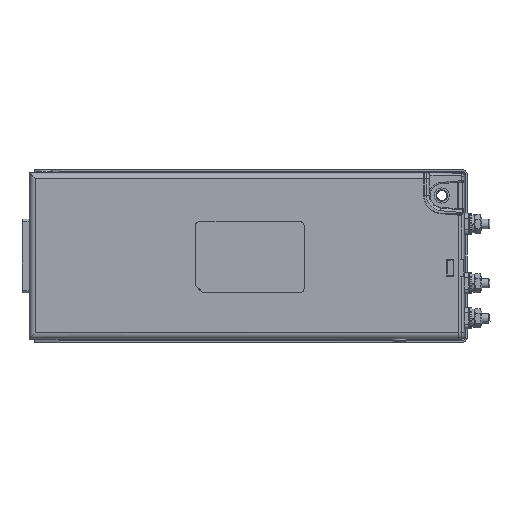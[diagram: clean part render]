
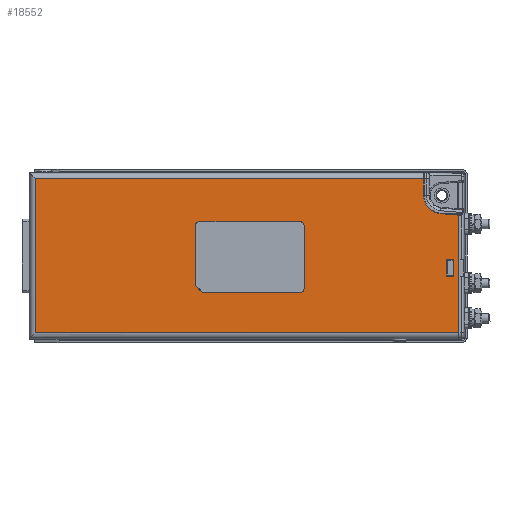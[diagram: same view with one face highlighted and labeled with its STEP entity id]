
A CAD part, top view. The second image highlights one B-rep face of the part: STEP entity #18552.
In plain terms, the highlighted planar face has unit normal (0, 0, 1).
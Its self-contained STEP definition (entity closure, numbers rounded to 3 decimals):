
#372=FACE_BOUND('',#2056,.T.);
#373=FACE_BOUND('',#2057,.T.);
#474=PLANE('',#19673);
#995=FACE_OUTER_BOUND('',#2055,.T.);
#2055=EDGE_LOOP('',(#11866,#11867,#11868,#11869,#11870,#11871,#11872,#11873));
#2056=EDGE_LOOP('',(#11874,#11875,#11876,#11877));
#2057=EDGE_LOOP('',(#11878,#11879,#11880,#11881,#11882,#11883,#11884,#11885,
#11886,#11887));
#3506=CIRCLE('',#19672,7.7);
#3507=CIRCLE('',#19674,2.);
#3508=CIRCLE('',#19675,2.);
#3509=CIRCLE('',#19676,2.);
#4176=LINE('',#27197,#5779);
#4193=LINE('',#27293,#5796);
#4199=LINE('',#27341,#5802);
#4200=LINE('',#27343,#5803);
#4201=LINE('',#27344,#5804);
#4202=LINE('',#27346,#5805);
#4203=LINE('',#27347,#5806);
#4204=LINE('',#27350,#5807);
#4205=LINE('',#27352,#5808);
#4206=LINE('',#27354,#5809);
#4207=LINE('',#27355,#5810);
#4208=LINE('',#27358,#5811);
#4209=LINE('',#27362,#5812);
#4210=LINE('',#27366,#5813);
#4211=LINE('',#27370,#5814);
#4212=LINE('',#27372,#5815);
#4213=LINE('',#27374,#5816);
#4214=LINE('',#27375,#5817);
#5779=VECTOR('',#21692,10.);
#5796=VECTOR('',#21727,10.);
#5802=VECTOR('',#21753,10.);
#5803=VECTOR('',#21754,10.);
#5804=VECTOR('',#21755,10.);
#5805=VECTOR('',#21756,10.);
#5806=VECTOR('',#21757,10.);
#5807=VECTOR('',#21758,10.);
#5808=VECTOR('',#21759,10.);
#5809=VECTOR('',#21760,10.);
#5810=VECTOR('',#21761,10.);
#5811=VECTOR('',#21762,10.);
#5812=VECTOR('',#21765,10.);
#5813=VECTOR('',#21768,10.);
#5814=VECTOR('',#21771,10.);
#5815=VECTOR('',#21772,10.);
#5816=VECTOR('',#21773,10.);
#5817=VECTOR('',#21774,10.);
#7410=VERTEX_POINT('',#27194);
#7411=VERTEX_POINT('',#27196);
#7433=VERTEX_POINT('',#27291);
#7443=VERTEX_POINT('',#27335);
#7444=VERTEX_POINT('',#27339);
#7445=VERTEX_POINT('',#27340);
#7446=VERTEX_POINT('',#27342);
#7447=VERTEX_POINT('',#27345);
#7448=VERTEX_POINT('',#27348);
#7449=VERTEX_POINT('',#27349);
#7450=VERTEX_POINT('',#27351);
#7451=VERTEX_POINT('',#27353);
#7452=VERTEX_POINT('',#27356);
#7453=VERTEX_POINT('',#27357);
#7454=VERTEX_POINT('',#27359);
#7455=VERTEX_POINT('',#27361);
#7456=VERTEX_POINT('',#27363);
#7457=VERTEX_POINT('',#27365);
#7458=VERTEX_POINT('',#27367);
#7459=VERTEX_POINT('',#27369);
#7460=VERTEX_POINT('',#27371);
#7461=VERTEX_POINT('',#27373);
#9102=EDGE_CURVE('',#7410,#7411,#4176,.T.);
#9128=EDGE_CURVE('',#7410,#7433,#4193,.T.);
#9141=EDGE_CURVE('',#7433,#7443,#3506,.T.);
#9142=EDGE_CURVE('',#7444,#7445,#4199,.T.);
#9143=EDGE_CURVE('',#7445,#7446,#4200,.T.);
#9144=EDGE_CURVE('',#7411,#7446,#4201,.T.);
#9145=EDGE_CURVE('',#7443,#7447,#4202,.T.);
#9146=EDGE_CURVE('',#7447,#7444,#4203,.T.);
#9147=EDGE_CURVE('',#7448,#7449,#4204,.T.);
#9148=EDGE_CURVE('',#7449,#7450,#4205,.T.);
#9149=EDGE_CURVE('',#7450,#7451,#4206,.T.);
#9150=EDGE_CURVE('',#7451,#7448,#4207,.T.);
#9151=EDGE_CURVE('',#7452,#7453,#4208,.T.);
#9152=EDGE_CURVE('',#7454,#7452,#3507,.T.);
#9153=EDGE_CURVE('',#7455,#7454,#4209,.T.);
#9154=EDGE_CURVE('',#7456,#7455,#3508,.T.);
#9155=EDGE_CURVE('',#7457,#7456,#4210,.T.);
#9156=EDGE_CURVE('',#7458,#7457,#3509,.T.);
#9157=EDGE_CURVE('',#7459,#7458,#4211,.T.);
#9158=EDGE_CURVE('',#7460,#7459,#4212,.T.);
#9159=EDGE_CURVE('',#7461,#7460,#4213,.T.);
#9160=EDGE_CURVE('',#7453,#7461,#4214,.T.);
#11866=ORIENTED_EDGE('',*,*,#9142,.T.);
#11867=ORIENTED_EDGE('',*,*,#9143,.T.);
#11868=ORIENTED_EDGE('',*,*,#9144,.F.);
#11869=ORIENTED_EDGE('',*,*,#9102,.F.);
#11870=ORIENTED_EDGE('',*,*,#9128,.T.);
#11871=ORIENTED_EDGE('',*,*,#9141,.T.);
#11872=ORIENTED_EDGE('',*,*,#9145,.T.);
#11873=ORIENTED_EDGE('',*,*,#9146,.T.);
#11874=ORIENTED_EDGE('',*,*,#9147,.T.);
#11875=ORIENTED_EDGE('',*,*,#9148,.T.);
#11876=ORIENTED_EDGE('',*,*,#9149,.T.);
#11877=ORIENTED_EDGE('',*,*,#9150,.T.);
#11878=ORIENTED_EDGE('',*,*,#9151,.F.);
#11879=ORIENTED_EDGE('',*,*,#9152,.F.);
#11880=ORIENTED_EDGE('',*,*,#9153,.F.);
#11881=ORIENTED_EDGE('',*,*,#9154,.F.);
#11882=ORIENTED_EDGE('',*,*,#9155,.F.);
#11883=ORIENTED_EDGE('',*,*,#9156,.F.);
#11884=ORIENTED_EDGE('',*,*,#9157,.F.);
#11885=ORIENTED_EDGE('',*,*,#9158,.F.);
#11886=ORIENTED_EDGE('',*,*,#9159,.F.);
#11887=ORIENTED_EDGE('',*,*,#9160,.F.);
#18552=ADVANCED_FACE('',(#995,#372,#373),#474,.T.);
#19672=AXIS2_PLACEMENT_3D('',#27337,#21749,#21750);
#19673=AXIS2_PLACEMENT_3D('',#27338,#21751,#21752);
#19674=AXIS2_PLACEMENT_3D('',#27360,#21763,#21764);
#19675=AXIS2_PLACEMENT_3D('',#27364,#21766,#21767);
#19676=AXIS2_PLACEMENT_3D('',#27368,#21769,#21770);
#21692=DIRECTION('',(0.676,-0.737,0.));
#21727=DIRECTION('',(-0.996,0.087,0.));
#21749=DIRECTION('center_axis',(0.,0.,
-1.));
#21750=DIRECTION('ref_axis',(-1.,0.,0.));
#21751=DIRECTION('center_axis',(0.,0.,
1.));
#21752=DIRECTION('ref_axis',(0.,-1.,0.));
#21753=DIRECTION('',(0.,-1.,0.));
#21754=DIRECTION('',(1.,0.,0.));
#21755=DIRECTION('',(0.,-1.,0.));
#21756=DIRECTION('',(0.,1.,0.));
#21757=DIRECTION('',(-1.,0.,0.));
#21758=DIRECTION('',(-1.,0.,0.));
#21759=DIRECTION('',(0.,1.,0.));
#21760=DIRECTION('',(1.,0.,0.));
#21761=DIRECTION('',(0.,-1.,0.));
#21762=DIRECTION('',(0.,-1.,0.));
#21763=DIRECTION('center_axis',(0.,0.,
1.));
#21764=DIRECTION('ref_axis',(-0.707,0.707,0.));
#21765=DIRECTION('',(-1.,0.,0.));
#21766=DIRECTION('center_axis',(0.,0.,
1.));
#21767=DIRECTION('ref_axis',(0.707,0.707,0.));
#21768=DIRECTION('',(0.,1.,0.));
#21769=DIRECTION('center_axis',(0.,0.,
1.));
#21770=DIRECTION('ref_axis',(0.707,-0.707,0.));
#21771=DIRECTION('',(1.,0.,0.));
#21772=DIRECTION('',(0.707,-0.707,0.));
#21773=DIRECTION('',(0.707,-0.707,0.));
#21774=DIRECTION('',(0.,-1.,0.));
#27194=CARTESIAN_POINT('',(90.502,17.202,34.9));
#27196=CARTESIAN_POINT('',(91.,16.658,34.9));
#27197=CARTESIAN_POINT('',(74.371,34.805,34.9));
#27291=CARTESIAN_POINT('',(83.329,17.829,34.9));
#27293=CARTESIAN_POINT('',(46.839,21.022,34.9));
#27335=CARTESIAN_POINT('',(76.3,25.5,34.9));
#27337=CARTESIAN_POINT('Origin',(84.,25.5,34.9));
#27338=CARTESIAN_POINT('Origin',(0.5,0.,
34.9));
#27339=CARTESIAN_POINT('',(-87.5,32.5,34.9));
#27340=CARTESIAN_POINT('',(-87.5,-32.5,34.9));
#27341=CARTESIAN_POINT('',(-87.5,-16.25,34.9));
#27342=CARTESIAN_POINT('',(91.,-32.5,34.9));
#27343=CARTESIAN_POINT('',(-44.75,-32.5,34.9));
#27344=CARTESIAN_POINT('',(91.,35.,34.9));
#27345=CARTESIAN_POINT('',(76.3,32.5,34.9));
#27346=CARTESIAN_POINT('',(76.3,12.75,34.9));
#27347=CARTESIAN_POINT('',(45.75,32.5,34.9));
#27348=CARTESIAN_POINT('',(89.,-8.5,34.9));
#27349=CARTESIAN_POINT('',(86.,-8.5,34.9));
#27350=CARTESIAN_POINT('',(44.75,-8.5,34.9));
#27351=CARTESIAN_POINT('',(86.,-1.5,34.9));
#27352=CARTESIAN_POINT('',(86.,-4.25,34.9));
#27353=CARTESIAN_POINT('',(89.,-1.5,34.9));
#27354=CARTESIAN_POINT('',(43.25,-1.5,34.9));
#27355=CARTESIAN_POINT('',(89.,-0.75,34.9));
#27356=CARTESIAN_POINT('',(-20.,12.475,34.9));
#27357=CARTESIAN_POINT('',(-20.,-9.025,34.9));
#27358=CARTESIAN_POINT('',(-20.,14.475,34.9));
#27359=CARTESIAN_POINT('',(-18.,14.475,34.9));
#27360=CARTESIAN_POINT('Origin',(-18.,12.475,34.9));
#27361=CARTESIAN_POINT('',(24.,14.475,34.9));
#27362=CARTESIAN_POINT('',(26.,14.475,34.9));
#27363=CARTESIAN_POINT('',(26.,12.475,34.9));
#27364=CARTESIAN_POINT('Origin',(24.,12.475,34.9));
#27365=CARTESIAN_POINT('',(26.,-13.525,34.9));
#27366=CARTESIAN_POINT('',(26.,-15.525,34.9));
#27367=CARTESIAN_POINT('',(24.,-15.525,34.9));
#27368=CARTESIAN_POINT('Origin',(24.,-13.525,34.9));
#27369=CARTESIAN_POINT('',(-17.,-15.525,34.9));
#27370=CARTESIAN_POINT('',(-20.,-15.525,34.9));
#27371=CARTESIAN_POINT('',(-17.525,-15.,34.9));
#27372=CARTESIAN_POINT('',(-16.5,-16.025,34.9));
#27373=CARTESIAN_POINT('',(-20.,-12.525,34.9));
#27374=CARTESIAN_POINT('',(-16.5,-16.025,34.9));
#27375=CARTESIAN_POINT('',(-20.,14.475,34.9));
